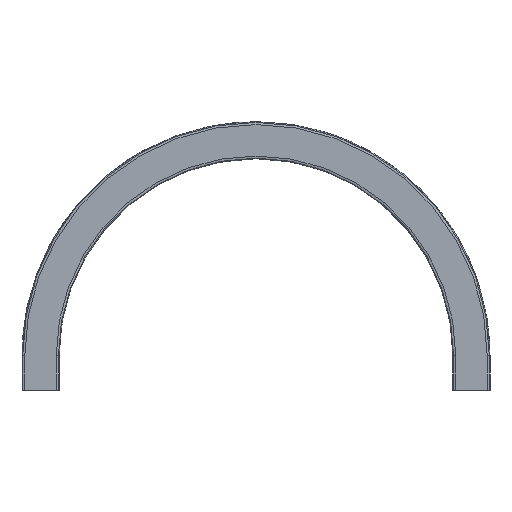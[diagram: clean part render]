
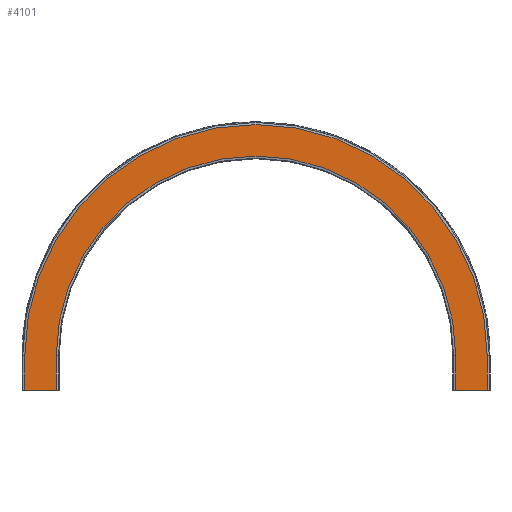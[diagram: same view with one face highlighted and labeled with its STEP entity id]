
A CAD part, front view. The second image highlights one B-rep face of the part: STEP entity #4101.
In plain terms, the highlighted planar face has unit normal (0, -1, 0).
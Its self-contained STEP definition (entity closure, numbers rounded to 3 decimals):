
#463=FACE_OUTER_BOUND('',#703,.T.);
#703=EDGE_LOOP('',(#3745,#3746,#3747,#3748,#3749,#3750,#3751,#3752));
#825=CIRCLE('',#4408,536.5);
#828=CIRCLE('',#4414,463.5);
#1186=LINE('',#8181,#1572);
#1191=LINE('',#8190,#1577);
#1193=LINE('',#8195,#1579);
#1208=LINE('',#8235,#1594);
#1213=LINE('',#8246,#1599);
#1214=LINE('',#8248,#1600);
#1572=VECTOR('',#5329,10.);
#1577=VECTOR('',#5336,10.);
#1579=VECTOR('',#5340,10.);
#1594=VECTOR('',#5381,10.);
#1599=VECTOR('',#5394,10.);
#1600=VECTOR('',#5397,10.);
#1968=VERTEX_POINT('',#8178);
#1969=VERTEX_POINT('',#8180);
#1972=VERTEX_POINT('',#8187);
#1973=VERTEX_POINT('',#8192);
#1983=VERTEX_POINT('',#8218);
#1985=VERTEX_POINT('',#8228);
#1986=VERTEX_POINT('',#8233);
#1988=VERTEX_POINT('',#8244);
#2544=EDGE_CURVE('',#1969,#1968,#1186,.T.);
#2549=EDGE_CURVE('',#1969,#1972,#1191,.T.);
#2551=EDGE_CURVE('',#1968,#1973,#1193,.T.);
#2564=EDGE_CURVE('',#1973,#1983,#825,.T.);
#2570=EDGE_CURVE('',#1972,#1985,#828,.T.);
#2572=EDGE_CURVE('',#1983,#1986,#1208,.T.);
#2577=EDGE_CURVE('',#1985,#1988,#1213,.T.);
#2578=EDGE_CURVE('',#1986,#1988,#1214,.T.);
#3745=ORIENTED_EDGE('',*,*,#2578,.T.);
#3746=ORIENTED_EDGE('',*,*,#2577,.F.);
#3747=ORIENTED_EDGE('',*,*,#2570,.F.);
#3748=ORIENTED_EDGE('',*,*,#2549,.F.);
#3749=ORIENTED_EDGE('',*,*,#2544,.T.);
#3750=ORIENTED_EDGE('',*,*,#2551,.T.);
#3751=ORIENTED_EDGE('',*,*,#2564,.T.);
#3752=ORIENTED_EDGE('',*,*,#2572,.T.);
#3890=PLANE('',#4420);
#4101=ADVANCED_FACE('',(#463),#3890,.T.);
#4408=AXIS2_PLACEMENT_3D('',#8220,#5361,#5362);
#4414=AXIS2_PLACEMENT_3D('',#8231,#5376,#5377);
#4420=AXIS2_PLACEMENT_3D('',#8247,#5395,#5396);
#5329=DIRECTION('',(1.,0.,0.));
#5336=DIRECTION('',(0.,0.,1.));
#5340=DIRECTION('',(0.,0.,1.));
#5361=DIRECTION('center_axis',(0.,-1.,0.));
#5362=DIRECTION('ref_axis',(1.,0.,0.));
#5376=DIRECTION('center_axis',(0.,-1.,0.));
#5377=DIRECTION('ref_axis',(1.,0.,0.));
#5381=DIRECTION('',(0.,0.,-1.));
#5394=DIRECTION('',(0.,0.,-1.));
#5395=DIRECTION('center_axis',(0.,-1.,0.));
#5396=DIRECTION('ref_axis',(0.,0.,
1.));
#5397=DIRECTION('',(1.,0.,0.));
#8178=CARTESIAN_POINT('',(36.5,-11.,0.));
#8180=CARTESIAN_POINT('',(-36.5,-11.,0.));
#8181=CARTESIAN_POINT('',(-36.5,-11.,0.));
#8187=CARTESIAN_POINT('',(-36.5,-11.,80.));
#8190=CARTESIAN_POINT('',(-36.5,-11.,0.));
#8192=CARTESIAN_POINT('',(36.5,-11.,80.));
#8195=CARTESIAN_POINT('',(36.5,-11.,0.));
#8218=CARTESIAN_POINT('',(-1036.5,-11.,80.));
#8220=CARTESIAN_POINT('Origin',(-500.,-11.,80.));
#8228=CARTESIAN_POINT('',(-963.5,-11.,80.));
#8231=CARTESIAN_POINT('Origin',(-500.,-11.,80.));
#8233=CARTESIAN_POINT('',(-1036.5,-11.,0.));
#8235=CARTESIAN_POINT('',(-1036.5,-11.,1730.796));
#8244=CARTESIAN_POINT('',(-963.5,-11.,0.));
#8246=CARTESIAN_POINT('',(-963.5,-11.,1730.796));
#8247=CARTESIAN_POINT('Origin',(-1036.5,-11.,1730.796));
#8248=CARTESIAN_POINT('',(-1019.75,-11.,0.));
